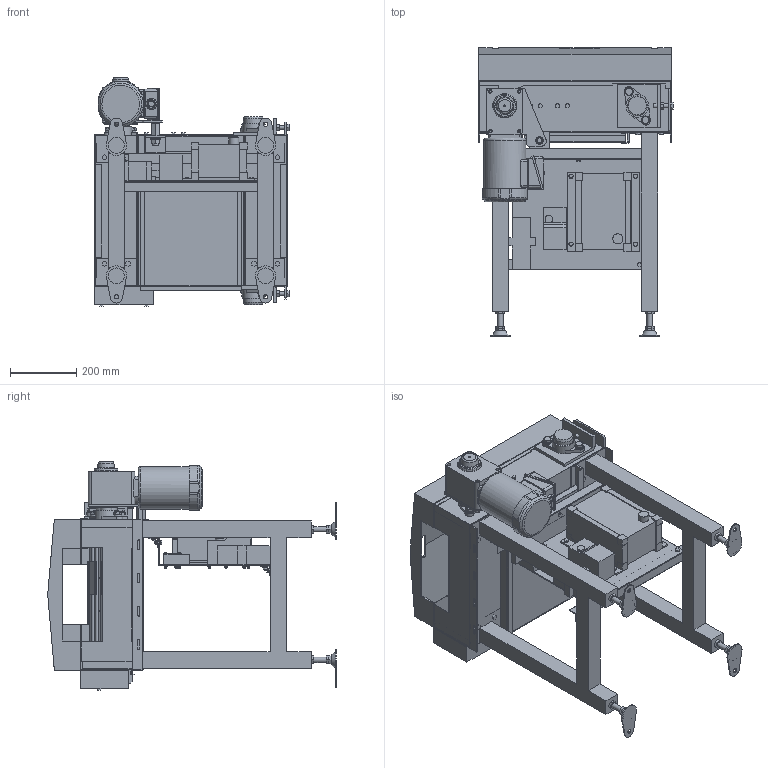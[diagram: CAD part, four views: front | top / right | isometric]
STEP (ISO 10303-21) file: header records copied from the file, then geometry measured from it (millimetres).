
FILE_DESCRIPTION( (''), '2;1');
FILE_NAME ('WEB-SLS-H-340-2-100-100-L-IVH-7.5.stp','2026-08-20T08:39:39',(''),(''),'spGate 21.9.5 (****-****-****-****)','','');
FILE_SCHEMA (('AUTOMOTIVE_DESIGN'));
Length unit declared in the file: millimetre
Products named in the file (77): WEB-SLS-H-340-2-100-100-L-IVH-7.5; TEMP_X_T-prt0; TEMP_X_T-prt1; TEMP_X_T-prt2; TEMP_X_T-prt3; TEMP_X_T-prt4; TEMP_X_T-prt5; TEMP_X_T-prt6; TEMP_X_T-prt7; TEMP_X_T-prt8; TEMP_X_T-prt9; TEMP_X_T-prt10; TEMP_X_T-prt11; TEMP_X_T-prt12; TEMP_X_T-prt13; TEMP_X_T-prt14; TEMP_X_T-prt15; TEMP_X_T-prt16; TEMP_X_T-prt17; TEMP_X_T-prt18; TEMP_X_T-prt19; TEMP_X_T-prt20; TEMP_X_T-prt21; TEMP_X_T-prt22; TEMP_X_T-prt23; TEMP_X_T-prt24; TEMP_X_T-prt25; TEMP_X_T-prt26; TEMP_X_T-prt27; TEMP_X_T-prt28; TEMP_X_T-prt29; TEMP_X_T-prt30; TEMP_X_T-prt31; TEMP_X_T-prt32; TEMP_X_T-prt33; TEMP_X_T-prt34; TEMP_X_T-prt35; TEMP_X_T-prt36; TEMP_X_T-prt37; TEMP_X_T-prt38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
Assembly tree (76 placements, depth 2):
  WEB-SLS-H-340-2-100-100-L-IVH-7.5
    TEMP_X_T-prt0
    TEMP_X_T-prt1
    TEMP_X_T-prt2
    TEMP_X_T-prt3
    TEMP_X_T-prt4
    TEMP_X_T-prt5
    TEMP_X_T-prt6
    TEMP_X_T-prt7
    TEMP_X_T-prt8
    TEMP_X_T-prt9
    TEMP_X_T-prt10
    TEMP_X_T-prt11
    TEMP_X_T-prt12
    TEMP_X_T-prt13
    TEMP_X_T-prt14
    TEMP_X_T-prt15
    TEMP_X_T-prt16
    TEMP_X_T-prt17
    TEMP_X_T-prt18
    TEMP_X_T-prt19
    TEMP_X_T-prt20
    TEMP_X_T-prt21
    TEMP_X_T-prt22
    TEMP_X_T-prt23
    TEMP_X_T-prt24
    TEMP_X_T-prt25
    TEMP_X_T-prt26
    TEMP_X_T-prt27
    TEMP_X_T-prt28
    TEMP_X_T-prt29
    TEMP_X_T-prt30
    TEMP_X_T-prt31
    TEMP_X_T-prt32
    TEMP_X_T-prt33
    TEMP_X_T-prt34
    TEMP_X_T-prt35
    TEMP_X_T-prt36
    TEMP_X_T-prt37
    TEMP_X_T-prt38
    TEMP_X_T-prt39
    TEMP_X_T-prt40
    TEMP_X_T-prt41
    TEMP_X_T-prt42
    TEMP_X_T-prt43
    TEMP_X_T-prt44
    TEMP_X_T-prt45
    TEMP_X_T-prt46
    TEMP_X_T-prt47
    TEMP_X_T-prt48
    TEMP_X_T-prt49
    TEMP_X_T-prt50
    TEMP_X_T-prt51
    TEMP_X_T-prt52
    TEMP_X_T-prt53
    TEMP_X_T-prt54
    TEMP_X_T-prt55
    TEMP_X_T-prt56
    TEMP_X_T-prt57
    TEMP_X_T-prt58
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Bounding box: 586 x 870.6 x 689.5 mm (x, y, z)
Volume: 35159693.5 mm3; surface area: 5732768.3 mm2
Topology: 76 solids, 76 shells, 2379 faces, 6128 edges, 4027 vertices
Faces by surface type: plane 1820, cylinder 440, bspline 115, sphere 4
Full cylindrical faces by diameter (mm): 4 x14, 4.15 x1, 5 x4, 6 x14, 8 x6, 8.376 x4, 8.5 x6, 9 x4, 9.2 x5, 10.5 x4, 11 x4, 11.8 x4, 12 x2, 12.2 x18, 12.5 x21, 13 x8, 14 x8, 15.4 x1, 16 x16, 18 x1, 20 x1, 21 x6, 22.2 x1, 23 x1, 24 x1, 25 x1, 28 x1, 30 x1, 30.5 x1, 34 x1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
Entity records: 125882 total; most frequent: CARTESIAN_POINT 16131, ORIENTED_EDGE 12248, DIRECTION 11875, COLOUR_RGB 8579, PRESENTATION_STYLE_ASSIGNMENT 8579, STYLED_ITEM 8579, EDGE_CURVE 6124, DRAUGHTING_PRE_DEFINED_CURVE_FONT 6124
